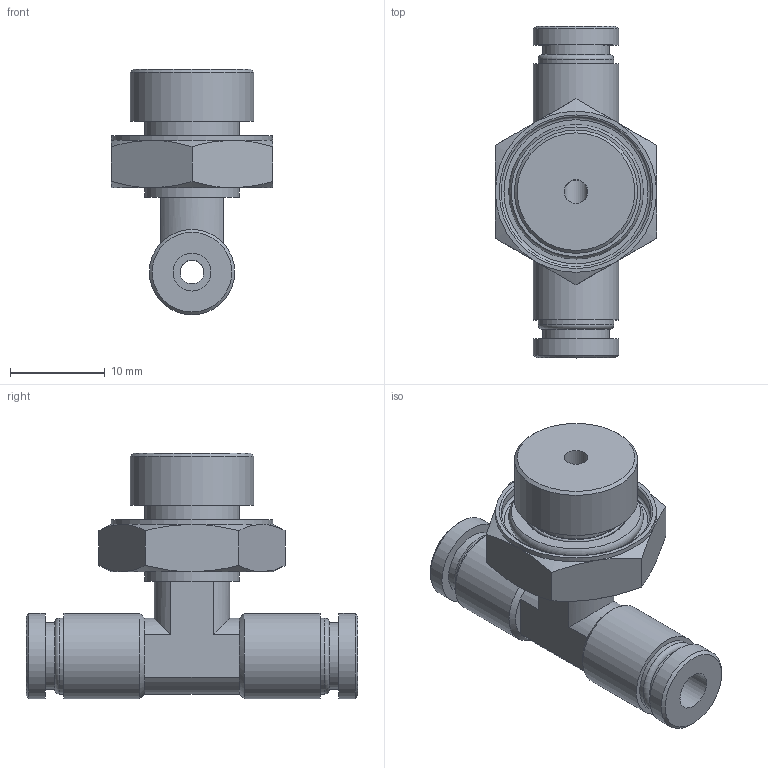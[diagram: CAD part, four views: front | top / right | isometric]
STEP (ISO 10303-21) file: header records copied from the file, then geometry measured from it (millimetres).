
FILE_DESCRIPTION(/* description */ (''),/* implementation_level */ '2;1');
FILE_NAME(/* name */ 'LXH38 0004 B2.stp',/* time_stamp */ '2026-04-24T18:54:43+02:00',/* author */ ('freju'),/* organization */ (''),/* preprocessor_version */ 'ST-DEVELOPER v20.1',/* originating_system */ 'Autodesk Inventor 2026',/* authorisation */ '');
FILE_SCHEMA (('AUTOMOTIVE_DESIGN { 1 0 10303 214 3 1 1 }'));
Length unit declared in the file: millimetre
Products named in the file (4): LXH38 0004 B2; LXH38 0004 B2_1; O-Ring; ISO 3601-1 - A 0106 G
Assembly tree (3 placements, depth 3):
  LXH38 0004 B2
    LXH38 0004 B2_1
    O-Ring
      ISO 3601-1 - A 0106 G
Bounding box: 17 x 35 x 25.9 mm (x, y, z)
Volume: 3900.6 mm3; surface area: 3230.8 mm2
Topology: 2 solids, 2 shells, 77 faces, 162 edges, 100 vertices
Faces by surface type: plane 29, cylinder 23, cone 17, torus 8
Full cylindrical faces by diameter (mm): 2.5 x2, 4 x2, 7 x2, 8 x2, 9 x4, 10 x2, 10.6 x1, 13 x1, 15.8 x1, 17 x1
Entity records: 2206 total; most frequent: DIRECTION 398, CARTESIAN_POINT 394, ORIENTED_EDGE 324, AXIS2_PLACEMENT_3D 176, EDGE_CURVE 162, VERTEX_POINT 100, EDGE_LOOP 94, CIRCLE 88
